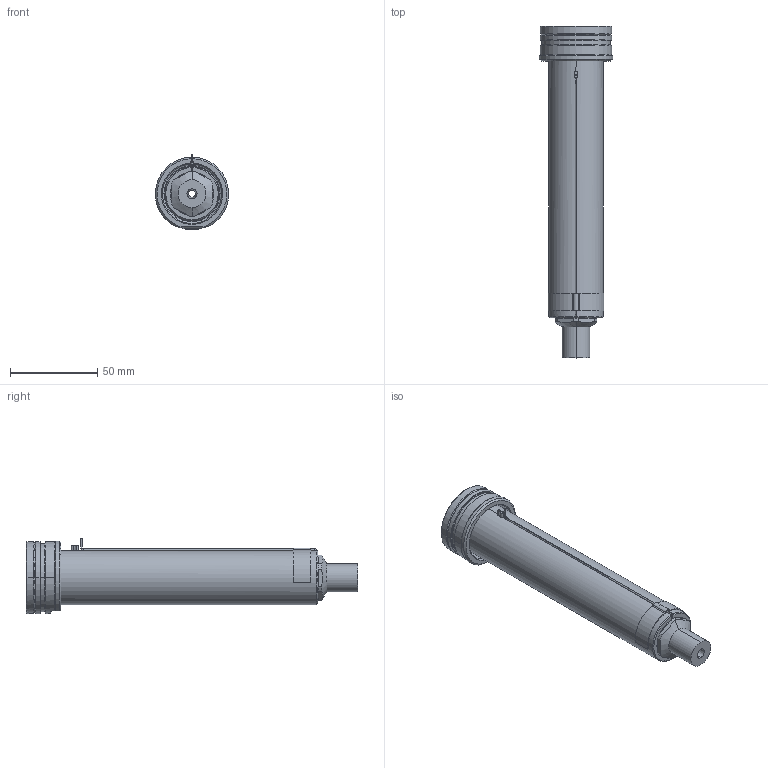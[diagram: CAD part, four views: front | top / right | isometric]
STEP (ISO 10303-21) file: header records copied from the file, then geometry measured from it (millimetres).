
FILE_DESCRIPTION((''),'2;1');
FILE_NAME('EO12_VG-FBE_WR_160_SW','2024-02-19T14:08:16',('sundharh'),(''),'CREO PARAMETRIC BY PTC INC, 2023154','CREO PARAMETRIC BY PTC INC, 2023154','');
FILE_SCHEMA(('CONFIG_CONTROL_DESIGN'));
Length unit declared in the file: millimetre
Products named in the file (1): EO12_VG-FBE_WR_160_SW
Bounding box: 41.85 x 190 x 43 mm (x, y, z)
Volume: 120943.7 mm3; surface area: 32901.3 mm2
Topology: 2 solids, 3 shells, 211 faces, 513 edges, 309 vertices
Faces by surface type: cylinder 73, plane 47, cone 43, torus 37, bspline 9, sphere 2
Entity records: 7041 total; most frequent: CARTESIAN_POINT 1970, DIRECTION 1144, ORIENTED_EDGE 1018, EDGE_CURVE 509, AXIS2_PLACEMENT_3D 484, VERTEX_POINT 309, CIRCLE 282, EDGE_LOOP 228
